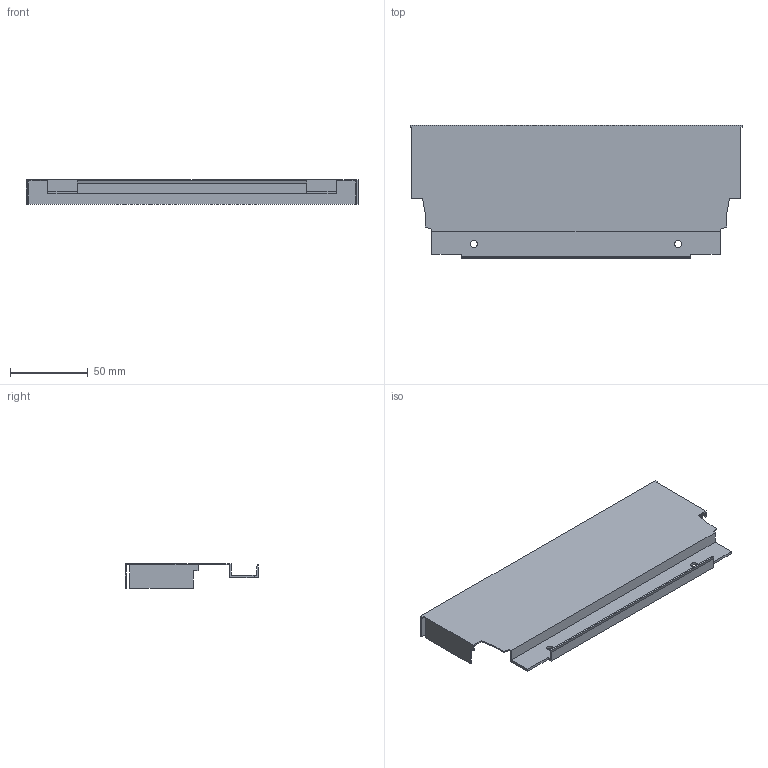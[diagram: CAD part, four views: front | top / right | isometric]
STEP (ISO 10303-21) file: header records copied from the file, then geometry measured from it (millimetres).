
FILE_DESCRIPTION (( 'STEP AP214' ), '1' );
FILE_NAME ('_DWD_XP Stahlrückwand_H86_KAB300_S19.step', '2010-07-08T12:10:29', ( 'grass' ), ( '' ), 'SwSTEP 2.0', 'SolidWorks 2010', '' );
FILE_SCHEMA (( 'AUTOMOTIVE_DESIGN' ));
Length unit declared in the file: millimetre
Products named in the file (1): _DWD_XP Stahlrückwand_H86_KAB300_S19
Bounding box: 213 x 85.79 x 16 mm (x, y, z)
Volume: 22087.9 mm3; surface area: 48947.3 mm2
Topology: 1 solids, 1 shells, 48 faces, 138 edges, 92 vertices
Faces by surface type: plane 44, cylinder 4
Entity records: 1592 total; most frequent: CARTESIAN_POINT 279, ORIENTED_EDGE 276, DIRECTION 244, EDGE_CURVE 138, VECTOR 130, LINE 130, VERTEX_POINT 92, AXIS2_PLACEMENT_3D 57
